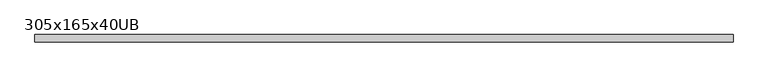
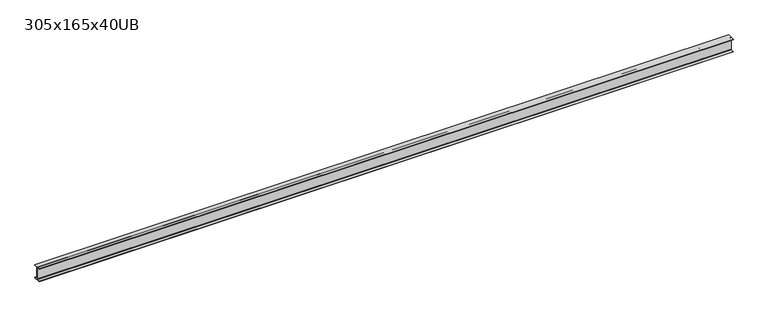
"""IFC4 building model written with IfcOpenShell, lengths in millimetres: beam geometry, UB-通用樑 : 305x165x40UB."""

from ifc_helpers import new_model, si_unit, point, frame, frame_2d, origin, place, context, project, spatial, polyline, circle_curve, trimmed, segment, composite_curve, outline, extrude, source, transform, mapped, element, save


def beam_305x165x40ub_2261ccc5(model_context):
    return source(origin(), model_context, "Body", "SweptSolid", [
        extrude(outline(composite_curve([segment(polyline([(82.5, -141.5), (82.5, -151.7), (-82.5, -151.7), (-82.5, -141.5), (-11.9, -141.5)]), True, "CONTINUOUS"), segment(trimmed(circle_curve(frame_2d((-11.9, -132.6)), 8.9), [point((-11.9, -141.5))], [point((-3.0, -132.6))], True, "CARTESIAN"), True, "CONTINUOUS"), segment(polyline([(-3.0, -132.6), (-3.0, 132.6)]), True, "CONTINUOUS"), segment(trimmed(circle_curve(frame_2d((-11.9, 132.6)), 8.9), [point((-3.0, 132.6))], [point((-11.9, 141.5))], True, "CARTESIAN"), True, "CONTINUOUS"), segment(polyline([(-11.9, 141.5), (-82.5, 141.5), (-82.5, 151.7), (82.5, 151.7), (82.5, 141.5), (11.9, 141.5)]), True, "CONTINUOUS"), segment(trimmed(circle_curve(frame_2d((11.9, 132.6)), 8.9), [point((11.9, 141.5))], [point((3.0, 132.6))], True, "CARTESIAN"), True, "CONTINUOUS"), segment(polyline([(3.0, 132.6), (3.0, -132.6)]), True, "CONTINUOUS"), segment(trimmed(circle_curve(frame_2d((11.9, -132.6)), 8.9), [point((3.0, -132.6))], [point((11.9, -141.5))], True, "CARTESIAN"), True, "CONTINUOUS"), segment(polyline([(11.9, -141.5), (82.5, -141.5)]), True, "CONTINUOUS")], self_intersect=False)), frame((-7842.2328359, 0.0, 0.0), z_axis=(1.0, 0.0, 0.0), x_axis=(0.0, 1.0, 0.0)), (0.0, 0.0, 1.0), 15518.0184311),
    ])


if __name__ == "__main__":
    model = new_model("IFC4")
    model_context = context("Model", 3, world=origin())
    ifc_project = project(units=[si_unit("LENGTHUNIT", "METRE", prefix="MILLI")], contexts=[model_context])
    site = spatial("IfcSite", under=ifc_project)
    building = spatial("IfcBuilding", under=site)
    placement = place(None, origin())
    beam_305x165x40ub_shape = beam_305x165x40ub_2261ccc5(model_context)
    element("IfcBeam", 1, ObjectType="UB-通用樑 : 305x165x40UB", at=placement, inside=building, context=model_context, shape_type="MappedRepresentation", body=[
        mapped(beam_305x165x40ub_shape, transform((0.0, 0.0, 0.0), x_axis=(1.0, 0.0, 0.0), y_axis=(0.0, 1.0, 0.0), z_axis=(0.0, 0.0, 1.0))),
    ])
    save(model, "model.ifc")
